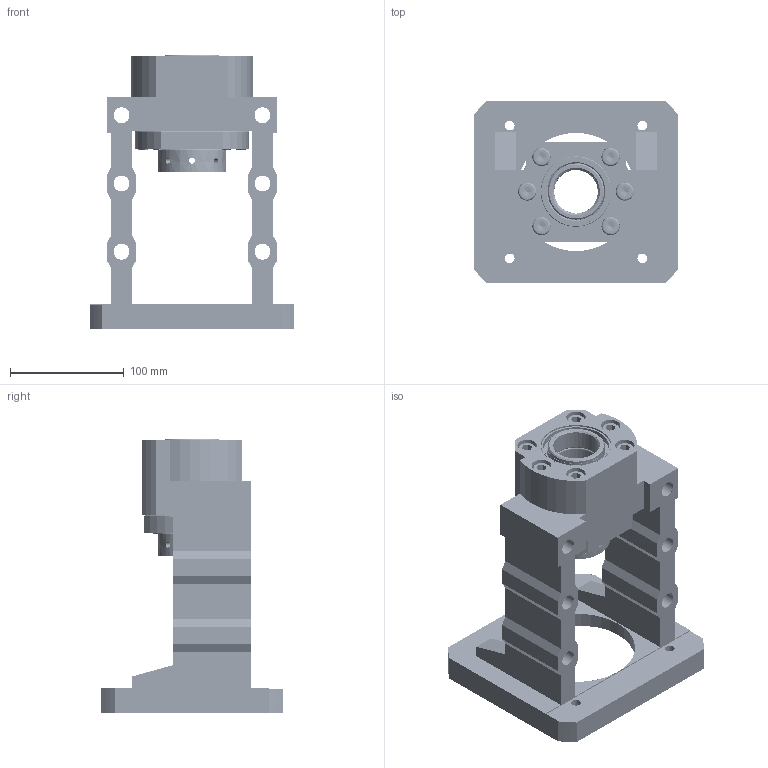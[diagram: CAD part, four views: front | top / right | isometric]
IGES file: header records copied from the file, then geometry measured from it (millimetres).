
Start section: SolidWorks IGES file using analytic representation for surfaces
Bounding box: 180 x 160 x 241 mm (x, y, z)
Surface area: 344188.4 mm2 (no closed solid volume)
Topology: 0 solids, 0 shells, 1071 faces, 18199 edges, 18039 vertices
Faces by surface type: revolution 812, bspline 259
